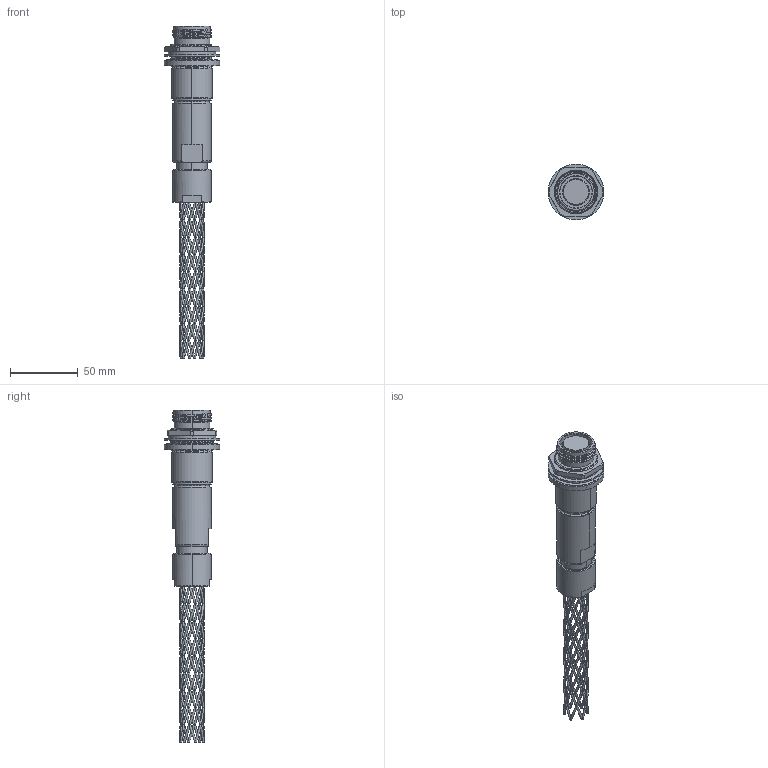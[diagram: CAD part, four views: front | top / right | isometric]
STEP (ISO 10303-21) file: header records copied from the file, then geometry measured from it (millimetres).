
FILE_DESCRIPTION (( 'STEP AP214' ), '1' );
FILE_NAME ('QLINK-RJTX-17XX-GXXX.STEP', '2025-09-30T22:16:54', ( '' ), ( '' ), 'SwSTEP 2.0', 'SolidWorks 2024', '' );
FILE_SCHEMA (( 'AUTOMOTIVE_DESIGN' ));
Products named in the file (1): QLINK-RJTX-17XX-GXXX
Bounding box: 41.02 x 41.02 x 244.36 mm (x, y, z)
Volume: 86897 mm3; surface area: 29629.6 mm2
Topology: 2 solids, 2 shells, 442 faces, 1245 edges, 713 vertices
Faces by surface type: bspline 251, cylinder 82, plane 50, cone 37, torus 22
Entity records: 116073 total; most frequent: CARTESIAN_POINT 107626, ORIENTED_EDGE 2490, EDGE_CURVE 1245, DIRECTION 1053, VERTEX_POINT 713, EDGE_LOOP 466, AXIS2_PLACEMENT_3D 450, ADVANCED_FACE 442
